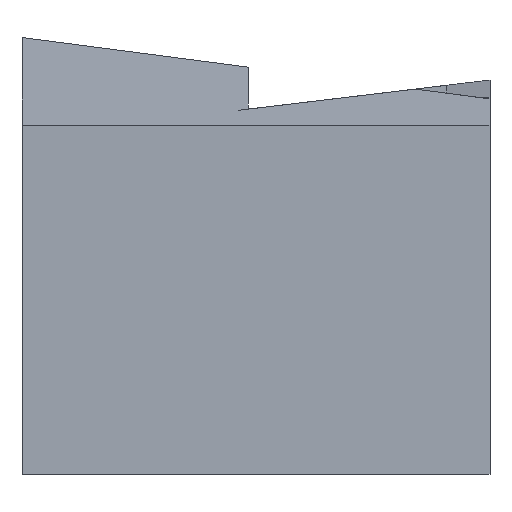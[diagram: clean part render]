
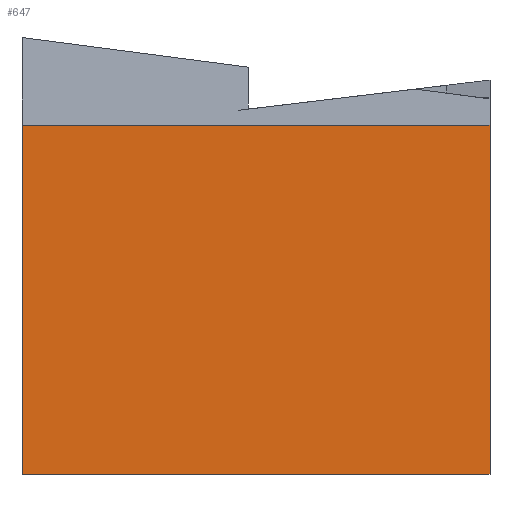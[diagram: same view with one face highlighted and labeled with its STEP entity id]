
A CAD part, front view. The second image highlights one B-rep face of the part: STEP entity #647.
In plain terms, the highlighted planar face has unit normal (0, -1, 0).
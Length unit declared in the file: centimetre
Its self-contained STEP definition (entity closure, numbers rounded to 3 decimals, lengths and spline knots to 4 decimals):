
#1 = EDGE_CURVE ( 'NONE', #396, #646, #50, .T. ) ;
#14 = EDGE_LOOP ( 'NONE', ( #386, #250, #414, #101 ) ) ;
#23 = DIRECTION ( 'NONE',  ( 1., 0., 0. ) ) ;
#50 = LINE ( 'NONE', #155, #652 ) ;
#68 = CARTESIAN_POINT ( 'NONE',  ( 0., 0., 1000. ) ) ;
#101 = ORIENTED_EDGE ( 'NONE', *, *, #590, .F. ) ;
#122 = LINE ( 'NONE', #529, #434 ) ;
#138 = CARTESIAN_POINT ( 'NONE',  ( 1000., 0., 1000. ) ) ;
#152 = EDGE_CURVE ( 'NONE', #396, #299, #122, .T. ) ;
#155 = CARTESIAN_POINT ( 'NONE',  ( 0., 0., 1000. ) ) ;
#198 = EDGE_CURVE ( 'NONE', #646, #610, #451, .T. ) ;
#228 = DIRECTION ( 'NONE',  ( 1., 0., 0. ) ) ;
#244 = DIRECTION ( 'NONE',  ( 0., 0., 1. ) ) ;
#250 = ORIENTED_EDGE ( 'NONE', *, *, #1, .T. ) ;
#279 = CARTESIAN_POINT ( 'NONE',  ( 1000., 0., 0. ) ) ;
#299 = VERTEX_POINT ( 'NONE', #629 ) ;
#303 = AXIS2_PLACEMENT_3D ( 'NONE', #68, #530, #244 ) ;
#319 = DIRECTION ( 'NONE',  ( 0., 0., -1. ) ) ;
#386 = ORIENTED_EDGE ( 'NONE', *, *, #152, .F. ) ;
#396 = VERTEX_POINT ( 'NONE', #559 ) ;
#398 = LINE ( 'NONE', #138, #455 ) ;
#414 = ORIENTED_EDGE ( 'NONE', *, *, #198, .T. ) ;
#417 = FACE_OUTER_BOUND ( 'NONE', #14, .T. ) ;
#434 = VECTOR ( 'NONE', #228, 100. ) ;
#451 = LINE ( 'NONE', #640, #608 ) ;
#455 = VECTOR ( 'NONE', #553, 100. ) ;
#466 = CARTESIAN_POINT ( 'NONE',  ( 0., 0., 0. ) ) ;
#529 = CARTESIAN_POINT ( 'NONE',  ( 0., 0., 746.2456 ) ) ;
#530 = DIRECTION ( 'NONE',  ( 0., 1., 0. ) ) ;
#553 = DIRECTION ( 'NONE',  ( 0., 0., -1. ) ) ;
#559 = CARTESIAN_POINT ( 'NONE',  ( 0., 0., 746.2456 ) ) ;
#590 = EDGE_CURVE ( 'NONE', #299, #610, #398, .T. ) ;
#608 = VECTOR ( 'NONE', #23, 100. ) ;
#610 = VERTEX_POINT ( 'NONE', #279 ) ;
#615 = PLANE ( 'NONE',  #303 ) ;
#629 = CARTESIAN_POINT ( 'NONE',  ( 1000., 0., 746.2456 ) ) ;
#640 = CARTESIAN_POINT ( 'NONE',  ( 0., 0., 0. ) ) ;
#646 = VERTEX_POINT ( 'NONE', #466 ) ;
#647 = ADVANCED_FACE ( 'NONE', ( #417 ), #615, .F. ) ;
#652 = VECTOR ( 'NONE', #319, 100. ) ;
